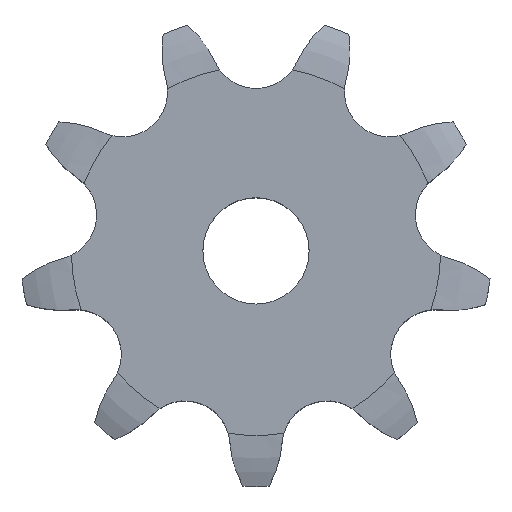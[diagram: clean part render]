
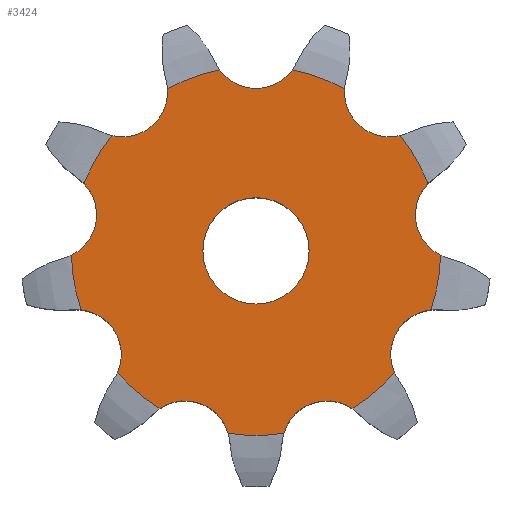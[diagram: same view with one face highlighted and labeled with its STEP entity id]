
A CAD part, top view. The second image highlights one B-rep face of the part: STEP entity #3424.
In plain terms, the highlighted planar face has unit normal (0, 0, 1).
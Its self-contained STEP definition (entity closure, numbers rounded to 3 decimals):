
#33=CARTESIAN_POINT('',(0.,0.,4.15));
#34=DIRECTION('',(0.,0.,-1.));
#35=DIRECTION('',(0.196,0.981,0.));
#36=AXIS2_PLACEMENT_3D('',#33,#34,#35);
#42=CARTESIAN_POINT('',(7.518,8.959,4.15));
#43=DIRECTION('',(0.,0.,1.));
#44=DIRECTION('',(-0.997,0.072,0.));
#45=AXIS2_PLACEMENT_3D('',#42,#43,#44);
#50=CARTESIAN_POINT('',(0.,0.,4.15));
#51=DIRECTION('',(0.,0.,-1.));
#52=DIRECTION('',(0.781,0.625,0.));
#53=AXIS2_PLACEMENT_3D('',#50,#51,#52);
#58=CARTESIAN_POINT('',(11.518,2.031,4.15));
#59=DIRECTION('',(0.,0.,1.));
#60=DIRECTION('',(-0.718,0.696,0.));
#61=AXIS2_PLACEMENT_3D('',#58,#59,#60);
#66=CARTESIAN_POINT('',(0.,0.,4.15));
#67=DIRECTION('',(0.,0.,-1.));
#68=DIRECTION('',(1.,-0.023,0.));
#69=AXIS2_PLACEMENT_3D('',#66,#67,#68);
#74=CARTESIAN_POINT('',(10.128,-5.848,4.15));
#75=DIRECTION('',(0.,0.,1.));
#76=DIRECTION('',(-0.102,0.995,0.));
#77=AXIS2_PLACEMENT_3D('',#74,#75,#76);
#82=CARTESIAN_POINT('',(0.,0.,4.15));
#83=DIRECTION('',(0.,0.,-1.));
#84=DIRECTION('',(0.751,-0.66,0.));
#85=AXIS2_PLACEMENT_3D('',#82,#83,#84);
#90=CARTESIAN_POINT('',(4.,-10.99,4.15));
#91=DIRECTION('',(0.,0.,1.));
#92=DIRECTION('',(0.561,0.828,0.));
#93=AXIS2_PLACEMENT_3D('',#90,#91,#92);
#98=CARTESIAN_POINT('',(-4.,-10.99,4.15));
#99=DIRECTION('',(0.,0.,1.));
#100=DIRECTION('',(0.962,0.273,0.));
#101=AXIS2_PLACEMENT_3D('',#98,#99,#100);
#106=CARTESIAN_POINT('',(0.,0.,4.15));
#107=DIRECTION('',(0.,0.,-1.));
#108=DIRECTION('',(-0.52,-0.854,0.));
#109=AXIS2_PLACEMENT_3D('',#106,#107,#108);
#114=CARTESIAN_POINT('',(-10.128,-5.848,4.15));
#115=DIRECTION('',(0.,0.,1.));
#116=DIRECTION('',(0.913,-0.409,0.));
#117=AXIS2_PLACEMENT_3D('',#114,#115,#116);
#122=CARTESIAN_POINT('',(0.,0.,4.15));
#123=DIRECTION('',(0.,0.,-1.));
#124=DIRECTION('',(-0.947,-0.32,0.));
#125=AXIS2_PLACEMENT_3D('',#122,#123,#124);
#130=CARTESIAN_POINT('',(-11.518,2.031,4.15));
#131=DIRECTION('',(0.,0.,1.));
#132=DIRECTION('',(0.436,-0.9,0.));
#133=AXIS2_PLACEMENT_3D('',#130,#131,#132);
#138=CARTESIAN_POINT('',(0.,0.,4.15));
#139=DIRECTION('',(0.,0.,-1.));
#140=DIRECTION('',(-0.932,0.364,0.));
#141=AXIS2_PLACEMENT_3D('',#138,#139,#140);
#146=CARTESIAN_POINT('',(-7.518,8.959,4.15));
#147=DIRECTION('',(0.,0.,1.));
#148=DIRECTION('',(-0.244,-0.97,0.));
#149=AXIS2_PLACEMENT_3D('',#146,#147,#148);
#154=CARTESIAN_POINT('',(0.,0.,4.15));
#155=DIRECTION('',(0.,0.,-1.));
#156=DIRECTION('',(-0.48,0.877,0.));
#157=AXIS2_PLACEMENT_3D('',#154,#155,#156);
#162=CARTESIAN_POINT('',(0.,11.695,4.15));
#163=DIRECTION('',(0.,0.,1.));
#164=DIRECTION('',(-0.811,-0.586,0.));
#165=AXIS2_PLACEMENT_3D('',#162,#163,#164);
#170=CARTESIAN_POINT('',(0.,0.,4.15));
#171=DIRECTION('',(0.,0.,1.));
#172=DIRECTION('',(1.,0.,0.));
#173=AXIS2_PLACEMENT_3D('',#170,#171,#172);
#178=CARTESIAN_POINT('',(0.,0.,4.15));
#179=DIRECTION('',(0.,0.,1.));
#180=DIRECTION('',(-1.,0.,0.));
#181=AXIS2_PLACEMENT_3D('',#178,#179,#180);
#234=CARTESIAN_POINT('',(0.,0.,4.15));
#235=DIRECTION('',(0.,0.,1.));
#236=DIRECTION('',(-0.151,-0.989,0.));
#237=AXIS2_PLACEMENT_3D('',#234,#235,#236);
#2277=CARTESIAN_POINT('',(-1.571,-10.3,4.15));
#3006=CARTESIAN_POINT('',(2.047,10.216,4.15));
#3007=CARTESIAN_POINT('',(4.999,9.142,4.15));
#3008=VERTEX_POINT('',#3006);
#3009=VERTEX_POINT('',#3007);
#3010=CARTESIAN_POINT('',(8.135,6.511,4.15));
#3011=CARTESIAN_POINT('',(9.706,3.789,4.15));
#3012=VERTEX_POINT('',#3010);
#3013=VERTEX_POINT('',#3011);
#3014=CARTESIAN_POINT('',(10.416,-0.241,4.15));
#3015=CARTESIAN_POINT('',(9.871,-3.336,4.15));
#3016=VERTEX_POINT('',#3014);
#3017=VERTEX_POINT('',#3015);
#3018=CARTESIAN_POINT('',(7.824,-6.88,4.15));
#3019=CARTESIAN_POINT('',(5.417,-8.9,4.15));
#3020=VERTEX_POINT('',#3018);
#3021=VERTEX_POINT('',#3019);
#3022=CARTESIAN_POINT('',(-5.417,-8.9,4.15));
#3023=CARTESIAN_POINT('',(-7.824,-6.88,4.15));
#3024=VERTEX_POINT('',#3022);
#3025=VERTEX_POINT('',#3023);
#3026=CARTESIAN_POINT('',(-9.871,-3.336,4.15));
#3027=CARTESIAN_POINT('',(-10.416,-0.241,4.15));
#3028=VERTEX_POINT('',#3026);
#3029=VERTEX_POINT('',#3027);
#3030=CARTESIAN_POINT('',(-9.706,3.789,4.15));
#3031=CARTESIAN_POINT('',(-8.135,6.511,4.15));
#3032=VERTEX_POINT('',#3030);
#3033=VERTEX_POINT('',#3031);
#3077=VERTEX_POINT('',#2277);
#3092=CARTESIAN_POINT('',(1.571,-10.3,4.15));
#3093=VERTEX_POINT('',#3092);
#3096=CARTESIAN_POINT('',(-4.999,9.142,4.15));
#3097=VERTEX_POINT('',#3096);
#3100=CARTESIAN_POINT('',(-2.047,10.216,4.15));
#3101=VERTEX_POINT('',#3100);
#3106=CARTESIAN_POINT('',(3.,0.,4.15));
#3107=CARTESIAN_POINT('',(-3.,0.,4.15));
#3108=VERTEX_POINT('',#3106);
#3109=VERTEX_POINT('',#3107);
#3375=CARTESIAN_POINT('',(0.,0.,4.15));
#3376=DIRECTION('',(0.,0.,1.));
#3377=DIRECTION('',(1.,0.,0.));
#3378=AXIS2_PLACEMENT_3D('',#3375,#3376,#3377);
#3379=PLANE('',#3378);
#3381=ORIENTED_EDGE('',*,*,#3380,.T.);
#3383=ORIENTED_EDGE('',*,*,#3382,.T.);
#3385=ORIENTED_EDGE('',*,*,#3384,.T.);
#3387=ORIENTED_EDGE('',*,*,#3386,.T.);
#3389=ORIENTED_EDGE('',*,*,#3388,.T.);
#3391=ORIENTED_EDGE('',*,*,#3390,.T.);
#3393=ORIENTED_EDGE('',*,*,#3392,.T.);
#3395=ORIENTED_EDGE('',*,*,#3394,.T.);
#3397=ORIENTED_EDGE('',*,*,#3396,.F.);
#3399=ORIENTED_EDGE('',*,*,#3398,.T.);
#3401=ORIENTED_EDGE('',*,*,#3400,.T.);
#3403=ORIENTED_EDGE('',*,*,#3402,.T.);
#3405=ORIENTED_EDGE('',*,*,#3404,.T.);
#3407=ORIENTED_EDGE('',*,*,#3406,.T.);
#3409=ORIENTED_EDGE('',*,*,#3408,.T.);
#3411=ORIENTED_EDGE('',*,*,#3410,.T.);
#3413=ORIENTED_EDGE('',*,*,#3412,.T.);
#3415=ORIENTED_EDGE('',*,*,#3414,.T.);
#3416=EDGE_LOOP('',(#3381,#3383,#3385,#3387,#3389,#3391,#3393,#3395,#3397,#3399,
#3401,#3403,#3405,#3407,#3409,#3411,#3413,#3415));
#3417=FACE_OUTER_BOUND('',#3416,.F.);
#3419=ORIENTED_EDGE('',*,*,#3418,.T.);
#3421=ORIENTED_EDGE('',*,*,#3420,.T.);
#3422=EDGE_LOOP('',(#3419,#3421));
#3423=FACE_BOUND('',#3422,.F.);
#3424=ADVANCED_FACE('',(#3417,#3423),#3379,.T.);
#37=CIRCLE('',#36,10.419);
#46=CIRCLE('',#45,2.525);
#54=CIRCLE('',#53,10.419);
#62=CIRCLE('',#61,2.525);
#70=CIRCLE('',#69,10.419);
#78=CIRCLE('',#77,2.525);
#86=CIRCLE('',#85,10.419);
#94=CIRCLE('',#93,2.525);
#102=CIRCLE('',#101,2.525);
#110=CIRCLE('',#109,10.419);
#118=CIRCLE('',#117,2.525);
#126=CIRCLE('',#125,10.419);
#134=CIRCLE('',#133,2.525);
#142=CIRCLE('',#141,10.419);
#150=CIRCLE('',#149,2.525);
#158=CIRCLE('',#157,10.419);
#166=CIRCLE('',#165,2.525);
#174=CIRCLE('',#173,3.);
#182=CIRCLE('',#181,3.);
#238=CIRCLE('',#237,10.419);
#3380=EDGE_CURVE('',#3008,#3009,#37,.T.);
#3382=EDGE_CURVE('',#3009,#3012,#46,.T.);
#3384=EDGE_CURVE('',#3012,#3013,#54,.T.);
#3386=EDGE_CURVE('',#3013,#3016,#62,.T.);
#3388=EDGE_CURVE('',#3016,#3017,#70,.T.);
#3390=EDGE_CURVE('',#3017,#3020,#78,.T.);
#3392=EDGE_CURVE('',#3020,#3021,#86,.T.);
#3394=EDGE_CURVE('',#3021,#3093,#94,.T.);
#3396=EDGE_CURVE('',#3077,#3093,#238,.T.);
#3398=EDGE_CURVE('',#3077,#3024,#102,.T.);
#3400=EDGE_CURVE('',#3024,#3025,#110,.T.);
#3402=EDGE_CURVE('',#3025,#3028,#118,.T.);
#3404=EDGE_CURVE('',#3028,#3029,#126,.T.);
#3406=EDGE_CURVE('',#3029,#3032,#134,.T.);
#3408=EDGE_CURVE('',#3032,#3033,#142,.T.);
#3410=EDGE_CURVE('',#3033,#3097,#150,.T.);
#3412=EDGE_CURVE('',#3097,#3101,#158,.T.);
#3414=EDGE_CURVE('',#3101,#3008,#166,.T.);
#3418=EDGE_CURVE('',#3108,#3109,#174,.T.);
#3420=EDGE_CURVE('',#3109,#3108,#182,.T.);
